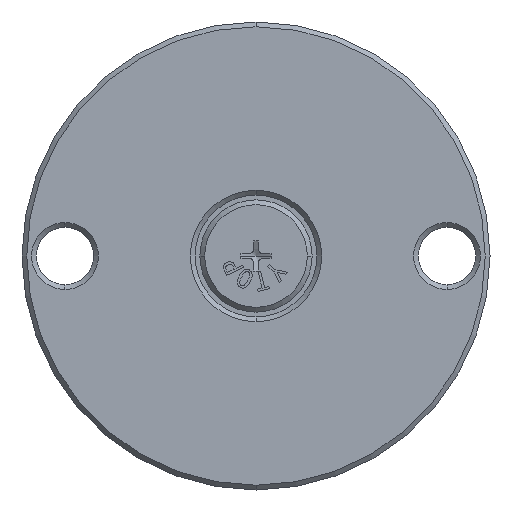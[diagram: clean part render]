
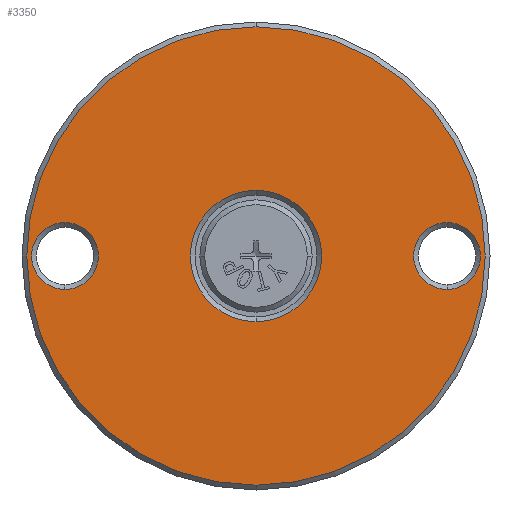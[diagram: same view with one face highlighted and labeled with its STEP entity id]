
A CAD part, front view. The second image highlights one B-rep face of the part: STEP entity #3350.
In plain terms, the highlighted planar face has unit normal (0, -1, 0).
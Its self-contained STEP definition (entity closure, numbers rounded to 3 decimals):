
#133 = VERTEX_POINT ( 'NONE', #3303 ) ;
#191 = AXIS2_PLACEMENT_3D ( 'NONE', #1039, #4907, #985 ) ;
#217 = AXIS2_PLACEMENT_3D ( 'NONE', #7140, #5067, #7714 ) ;
#604 = EDGE_LOOP ( 'NONE', ( #2280, #6196 ) ) ;
#732 = EDGE_CURVE ( 'NONE', #6253, #133, #7342, .T. ) ;
#753 = VERTEX_POINT ( 'NONE', #2855 ) ;
#786 = AXIS2_PLACEMENT_3D ( 'NONE', #8093, #6861, #5549 ) ;
#917 = CARTESIAN_POINT ( 'NONE',  ( -40., 0., -7. ) ) ;
#985 = DIRECTION ( 'NONE',  ( 0., 0., 1. ) ) ;
#996 = DIRECTION ( 'NONE',  ( 0., 0., 1. ) ) ;
#1039 = CARTESIAN_POINT ( 'NONE',  ( -40., 0., 0. ) ) ;
#1076 = CARTESIAN_POINT ( 'NONE',  ( -40., 0., 7. ) ) ;
#1093 = CIRCLE ( 'NONE', #1350, 7. ) ;
#1177 = ORIENTED_EDGE ( 'NONE', *, *, #6926, .T. ) ;
#1350 = AXIS2_PLACEMENT_3D ( 'NONE', #2316, #2944, #4273 ) ;
#1799 = FACE_BOUND ( 'NONE', #2194, .T. ) ;
#1916 = CIRCLE ( 'NONE', #1995, 7. ) ;
#1995 = AXIS2_PLACEMENT_3D ( 'NONE', #2664, #7235, #3318 ) ;
#2194 = EDGE_LOOP ( 'NONE', ( #3322, #4060 ) ) ;
#2195 = CARTESIAN_POINT ( 'NONE',  ( 0., 0., 0. ) ) ;
#2200 = FACE_OUTER_BOUND ( 'NONE', #4552, .T. ) ;
#2280 = ORIENTED_EDGE ( 'NONE', *, *, #732, .T. ) ;
#2307 = DIRECTION ( 'NONE',  ( 0., -1., 0. ) ) ;
#2316 = CARTESIAN_POINT ( 'NONE',  ( -40., 0., 0. ) ) ;
#2515 = ORIENTED_EDGE ( 'NONE', *, *, #7237, .T. ) ;
#2562 = EDGE_CURVE ( 'NONE', #753, #7677, #8329, .T. ) ;
#2626 = CIRCLE ( 'NONE', #191, 7. ) ;
#2664 = CARTESIAN_POINT ( 'NONE',  ( 40., 0., 0. ) ) ;
#2855 = CARTESIAN_POINT ( 'NONE',  ( 0., 0., -48. ) ) ;
#2944 = DIRECTION ( 'NONE',  ( 0., 1., 0. ) ) ;
#3059 = CARTESIAN_POINT ( 'NONE',  ( 40., 0., -7. ) ) ;
#3266 = CARTESIAN_POINT ( 'NONE',  ( 0., 0., 48. ) ) ;
#3303 = CARTESIAN_POINT ( 'NONE',  ( 0., 0., 13.75 ) ) ;
#3318 = DIRECTION ( 'NONE',  ( 0., 0., 1. ) ) ;
#3322 = ORIENTED_EDGE ( 'NONE', *, *, #5195, .T. ) ;
#3350 = ADVANCED_FACE ( 'NONE', ( #1799, #4872, #2200, #5076 ), #4911, .F. ) ;
#3490 = CARTESIAN_POINT ( 'NONE',  ( 0., 0., 0. ) ) ;
#3890 = EDGE_CURVE ( 'NONE', #133, #6253, #4433, .T. ) ;
#4060 = ORIENTED_EDGE ( 'NONE', *, *, #6370, .T. ) ;
#4178 = DIRECTION ( 'NONE',  ( 0., 0., 1. ) ) ;
#4273 = DIRECTION ( 'NONE',  ( 0., 0., 1. ) ) ;
#4343 = AXIS2_PLACEMENT_3D ( 'NONE', #3490, #5527, #996 ) ;
#4433 = CIRCLE ( 'NONE', #4343, 13.75 ) ;
#4552 = EDGE_LOOP ( 'NONE', ( #2515, #5673 ) ) ;
#4750 = VERTEX_POINT ( 'NONE', #917 ) ;
#4857 = VERTEX_POINT ( 'NONE', #3059 ) ;
#4872 = FACE_BOUND ( 'NONE', #4884, .T. ) ;
#4884 = EDGE_LOOP ( 'NONE', ( #1177, #5158 ) ) ;
#4891 = VERTEX_POINT ( 'NONE', #1076 ) ;
#4907 = DIRECTION ( 'NONE',  ( 0., 1., 0. ) ) ;
#4911 = PLANE ( 'NONE',  #786 ) ;
#4985 = DIRECTION ( 'NONE',  ( 0., 0., 1. ) ) ;
#5013 = AXIS2_PLACEMENT_3D ( 'NONE', #6940, #2307, #8224 ) ;
#5067 = DIRECTION ( 'NONE',  ( 0., -1., 0. ) ) ;
#5076 = FACE_BOUND ( 'NONE', #604, .T. ) ;
#5158 = ORIENTED_EDGE ( 'NONE', *, *, #6909, .T. ) ;
#5195 = EDGE_CURVE ( 'NONE', #4857, #5509, #6980, .T. ) ;
#5509 = VERTEX_POINT ( 'NONE', #5623 ) ;
#5527 = DIRECTION ( 'NONE',  ( 0., 1., 0. ) ) ;
#5549 = DIRECTION ( 'NONE',  ( 0., 0., 1. ) ) ;
#5571 = CIRCLE ( 'NONE', #5013, 48. ) ;
#5623 = CARTESIAN_POINT ( 'NONE',  ( 40., 0., 7. ) ) ;
#5632 = CARTESIAN_POINT ( 'NONE',  ( 0., 0., -13.75 ) ) ;
#5673 = ORIENTED_EDGE ( 'NONE', *, *, #2562, .T. ) ;
#5717 = DIRECTION ( 'NONE',  ( 0., 1., 0. ) ) ;
#6196 = ORIENTED_EDGE ( 'NONE', *, *, #3890, .T. ) ;
#6253 = VERTEX_POINT ( 'NONE', #5632 ) ;
#6370 = EDGE_CURVE ( 'NONE', #5509, #4857, #1916, .T. ) ;
#6747 = AXIS2_PLACEMENT_3D ( 'NONE', #8207, #5717, #4985 ) ;
#6861 = DIRECTION ( 'NONE',  ( 0., 1., 0. ) ) ;
#6909 = EDGE_CURVE ( 'NONE', #4891, #4750, #2626, .T. ) ;
#6926 = EDGE_CURVE ( 'NONE', #4750, #4891, #1093, .T. ) ;
#6940 = CARTESIAN_POINT ( 'NONE',  ( 0., 0., 0. ) ) ;
#6980 = CIRCLE ( 'NONE', #6747, 7. ) ;
#6991 = AXIS2_PLACEMENT_3D ( 'NONE', #2195, #7468, #4178 ) ;
#7140 = CARTESIAN_POINT ( 'NONE',  ( 0., 0., 0. ) ) ;
#7235 = DIRECTION ( 'NONE',  ( 0., 1., 0. ) ) ;
#7237 = EDGE_CURVE ( 'NONE', #7677, #753, #5571, .T. ) ;
#7342 = CIRCLE ( 'NONE', #6991, 13.75 ) ;
#7468 = DIRECTION ( 'NONE',  ( 0., 1., 0. ) ) ;
#7677 = VERTEX_POINT ( 'NONE', #3266 ) ;
#7714 = DIRECTION ( 'NONE',  ( 0., 0., 1. ) ) ;
#8093 = CARTESIAN_POINT ( 'NONE',  ( 49., 0., 0. ) ) ;
#8207 = CARTESIAN_POINT ( 'NONE',  ( 40., 0., 0. ) ) ;
#8224 = DIRECTION ( 'NONE',  ( 0., 0., 1. ) ) ;
#8329 = CIRCLE ( 'NONE', #217, 48. ) ;
